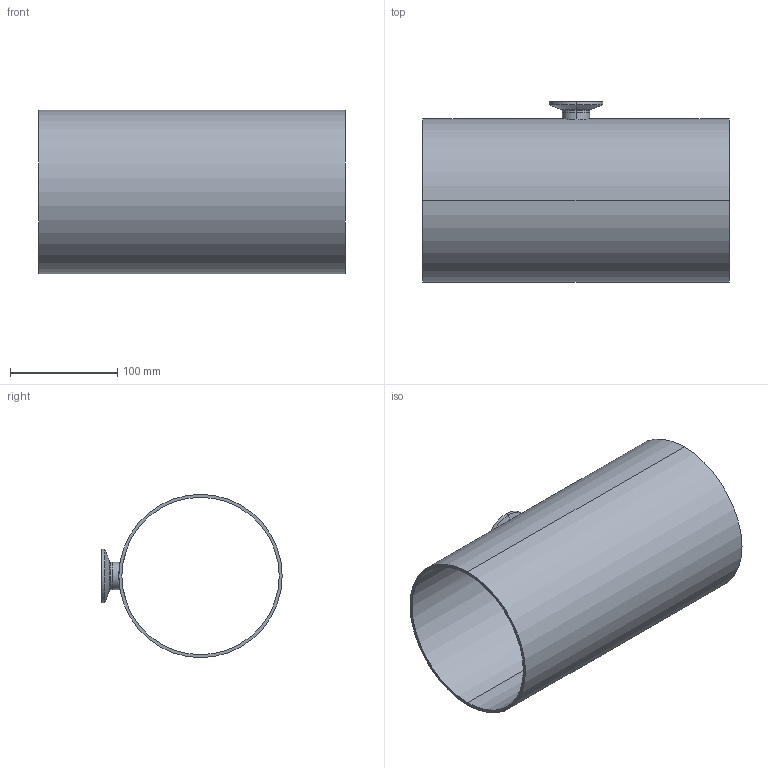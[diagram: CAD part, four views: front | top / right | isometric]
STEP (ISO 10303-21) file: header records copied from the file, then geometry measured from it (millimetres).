
FILE_DESCRIPTION (( 'STEP AP214' ), '1' );
FILE_NAME ('TE7RWWCS6L6.0x1.0-...STEP', '2016-05-23T12:35:59', ( 'eran' ), ( '' ), 'SwSTEP 2.0', 'SolidWorks 2016', '' );
FILE_SCHEMA (( 'AUTOMOTIVE_DESIGN' ));
Length unit declared in the file: millimetre
Products named in the file (1): TE7RWWCS6L6.0x1.0-..
Bounding box: 285.8 x 168.3 x 152.4 mm (x, y, z)
Volume: 380165.1 mm3; surface area: 276399 mm2
Topology: 2 solids, 2 shells, 36 faces, 88 edges, 58 vertices
Faces by surface type: cylinder 14, bspline 10, plane 6, cone 6
Entity records: 1831 total; most frequent: CARTESIAN_POINT 927, DIRECTION 190, ORIENTED_EDGE 176, EDGE_CURVE 88, AXIS2_PLACEMENT_3D 85, CIRCLE 58, VERTEX_POINT 58, EDGE_LOOP 44
